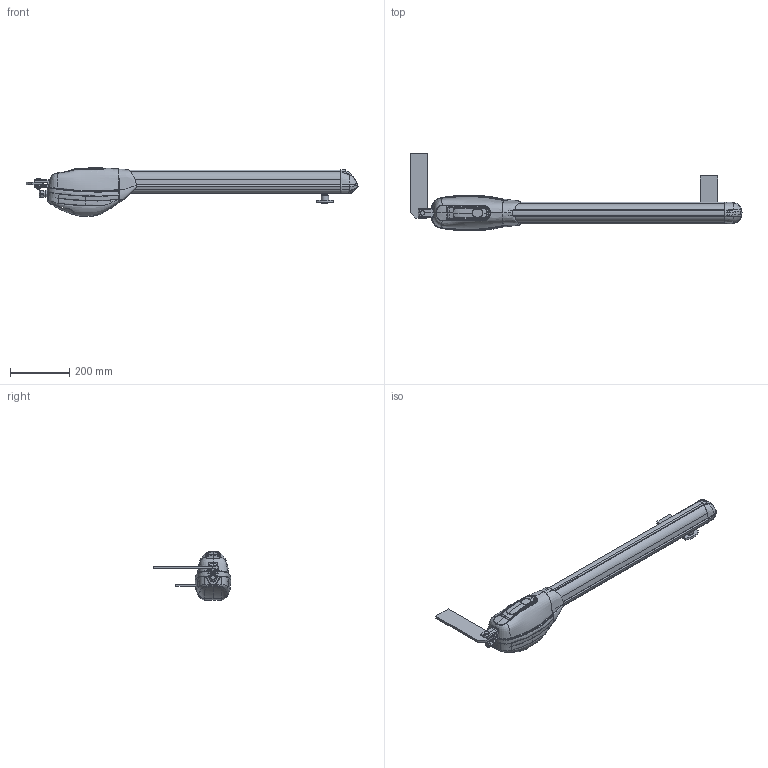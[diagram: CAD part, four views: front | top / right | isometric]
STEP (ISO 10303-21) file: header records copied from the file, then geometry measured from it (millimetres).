
FILE_DESCRIPTION (( 'STEP AP214' ), '1' );
FILE_NAME ('R20 LUNGO.STEP', '2017-03-13T07:36:00', ( 'admin' ), ( 'Microsoft' ), 'SwSTEP 2.0', 'SolidWorks 2016', '' );
FILE_SCHEMA (( 'AUTOMOTIVE_DESIGN' ));
Length unit declared in the file: millimetre
Products named in the file (1): R20 LUNGO
Bounding box: 1119.13 x 262.33 x 164.81 mm (x, y, z)
Volume: 6910154.9 mm3; surface area: 574519.7 mm2
Topology: 19 solids, 19 shells, 635 faces, 1857 edges, 1256 vertices
Faces by surface type: bspline 334, cylinder 137, plane 128, cone 34, torus 2
Entity records: 157521 total; most frequent: CARTESIAN_POINT 143823, ORIENTED_EDGE 3686, EDGE_CURVE 1843, DIRECTION 1445, VERTEX_POINT 1254, B_SPLINE_CURVE_WITH_KNOTS 1202, EDGE_LOOP 649, FACE_OUTER_BOUND 633
